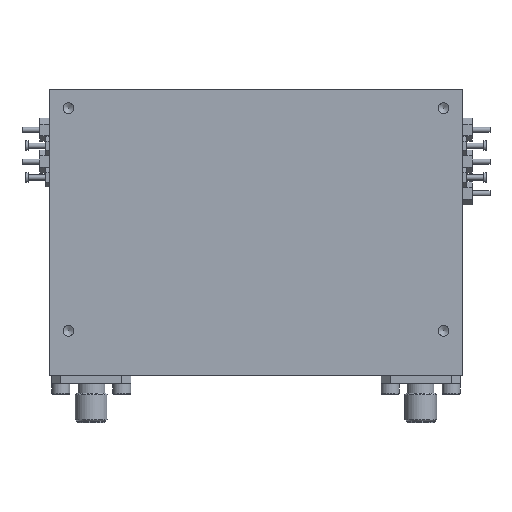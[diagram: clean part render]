
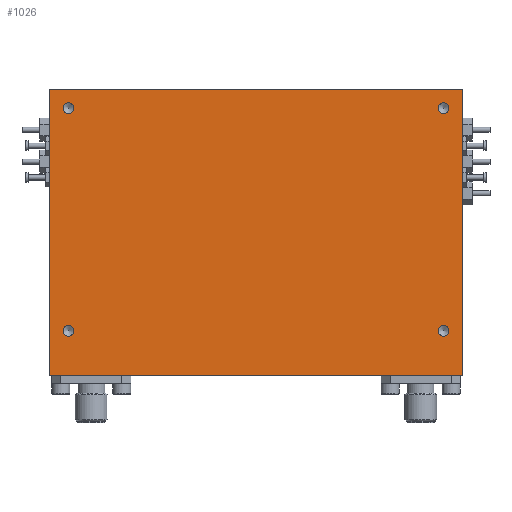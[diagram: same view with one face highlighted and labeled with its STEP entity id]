
A CAD part, front view. The second image highlights one B-rep face of the part: STEP entity #1026.
In plain terms, the highlighted planar face has unit normal (0, -1, 0).
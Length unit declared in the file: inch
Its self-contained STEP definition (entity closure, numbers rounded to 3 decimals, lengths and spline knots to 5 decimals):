
#548=CARTESIAN_POINT('',(1.5175,0.0,0.975));
#549=VERTEX_POINT('',#548);
#550=CARTESIAN_POINT('',(1.475,0.0,0.975));
#551=DIRECTION('',(0.0,1.0,0.0));
#552=DIRECTION('',(1.0,0.0,0.0));
#553=AXIS2_PLACEMENT_3D('',#550,#551,#552);
#554=CIRCLE('',#553,0.0425);
#555=EDGE_CURVE('',#549,#549,#554,.T.);
#585=CARTESIAN_POINT('',(-1.4325,0.0,0.975));
#586=VERTEX_POINT('',#585);
#587=CARTESIAN_POINT('',(-1.475,0.0,0.975));
#588=DIRECTION('',(0.0,1.0,0.0));
#589=DIRECTION('',(1.0,0.0,0.0));
#590=AXIS2_PLACEMENT_3D('',#587,#588,#589);
#591=CIRCLE('',#590,0.0425);
#592=EDGE_CURVE('',#586,#586,#591,.T.);
#622=CARTESIAN_POINT('',(-1.4325,0.0,-0.775));
#623=VERTEX_POINT('',#622);
#624=CARTESIAN_POINT('',(-1.475,0.0,-0.775));
#625=DIRECTION('',(0.0,1.0,0.0));
#626=DIRECTION('',(1.0,0.0,0.0));
#627=AXIS2_PLACEMENT_3D('',#624,#625,#626);
#628=CIRCLE('',#627,0.0425);
#629=EDGE_CURVE('',#623,#623,#628,.T.);
#659=CARTESIAN_POINT('',(1.5175,0.0,-0.775));
#660=VERTEX_POINT('',#659);
#661=CARTESIAN_POINT('',(1.475,0.0,-0.775));
#662=DIRECTION('',(0.0,1.0,0.0));
#663=DIRECTION('',(1.0,0.0,0.0));
#664=AXIS2_PLACEMENT_3D('',#661,#662,#663);
#665=CIRCLE('',#664,0.0425);
#666=EDGE_CURVE('',#660,#660,#665,.T.);
#827=CARTESIAN_POINT('',(-1.625,0.0,1.125));
#828=VERTEX_POINT('',#827);
#829=CARTESIAN_POINT('',(-1.625,0.0,-1.125));
#830=VERTEX_POINT('',#829);
#831=CARTESIAN_POINT('',(-1.625,0.0,1.125));
#832=DIRECTION('',(0.0,0.0,-1.0));
#833=VECTOR('',#832,2.25);
#834=LINE('',#831,#833);
#835=EDGE_CURVE('',#828,#830,#834,.T.);
#879=CARTESIAN_POINT('',(1.625,0.0,-1.125));
#880=VERTEX_POINT('',#879);
#881=CARTESIAN_POINT('',(-1.625,0.0,-1.125));
#882=DIRECTION('',(1.0,0.0,0.0));
#883=VECTOR('',#882,3.25);
#884=LINE('',#881,#883);
#885=EDGE_CURVE('',#830,#880,#884,.T.);
#916=CARTESIAN_POINT('',(1.625,0.0,1.125));
#917=VERTEX_POINT('',#916);
#918=CARTESIAN_POINT('',(1.625,0.0,-1.125));
#919=DIRECTION('',(0.0,0.0,1.0));
#920=VECTOR('',#919,2.25);
#921=LINE('',#918,#920);
#922=EDGE_CURVE('',#880,#917,#921,.T.);
#962=CARTESIAN_POINT('',(1.625,0.0,1.125));
#963=DIRECTION('',(-1.0,0.0,0.0));
#964=VECTOR('',#963,3.25);
#965=LINE('',#962,#964);
#966=EDGE_CURVE('',#917,#828,#965,.T.);
#1003=CARTESIAN_POINT('',(0.0,0.0,0.0));
#1004=DIRECTION('',(0.0,1.0,0.0));
#1005=DIRECTION('',(0.0,0.0,1.0));
#1006=AXIS2_PLACEMENT_3D('',#1003,#1004,#1005);
#1007=PLANE('',#1006);
#1008=ORIENTED_EDGE('',*,*,#966,.T.);
#1009=ORIENTED_EDGE('',*,*,#835,.T.);
#1010=ORIENTED_EDGE('',*,*,#885,.T.);
#1011=ORIENTED_EDGE('',*,*,#922,.T.);
#1012=EDGE_LOOP('',(#1008,#1009,#1010,#1011));
#1013=FACE_OUTER_BOUND('',#1012,.T.);
#1014=ORIENTED_EDGE('',*,*,#555,.T.);
#1015=EDGE_LOOP('',(#1014));
#1016=FACE_BOUND('',#1015,.T.);
#1017=ORIENTED_EDGE('',*,*,#592,.T.);
#1018=EDGE_LOOP('',(#1017));
#1019=FACE_BOUND('',#1018,.T.);
#1020=ORIENTED_EDGE('',*,*,#629,.T.);
#1021=EDGE_LOOP('',(#1020));
#1022=FACE_BOUND('',#1021,.T.);
#1023=ORIENTED_EDGE('',*,*,#666,.T.);
#1024=EDGE_LOOP('',(#1023));
#1025=FACE_BOUND('',#1024,.T.);
#1026=ADVANCED_FACE('',(#1013,#1016,#1019,#1022,#1025),#1007,.F.);
